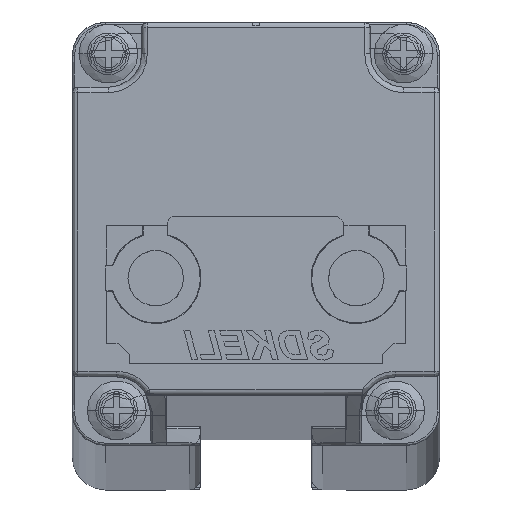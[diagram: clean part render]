
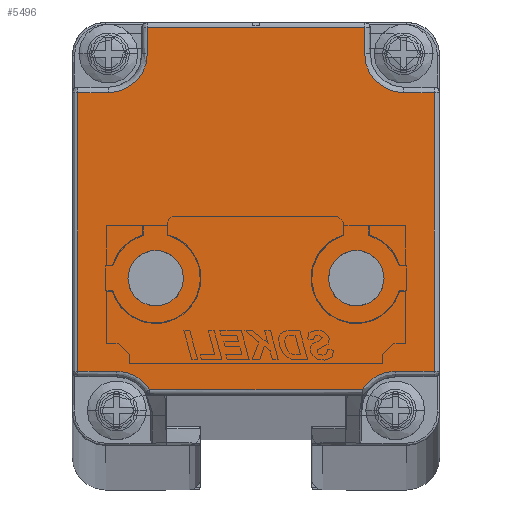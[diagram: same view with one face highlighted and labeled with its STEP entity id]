
A CAD part, top view. The second image highlights one B-rep face of the part: STEP entity #5496.
In plain terms, the highlighted planar face has unit normal (0, 0, 1).
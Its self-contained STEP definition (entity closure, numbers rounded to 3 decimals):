
#2552=CARTESIAN_POINT('',(4.,3.152,370.));
#2553=DIRECTION('',(0.,0.,1.));
#2554=DIRECTION('',(0.849,0.528,0.));
#2555=AXIS2_PLACEMENT_3D('',#2552,#2553,#2554);
#2557=CARTESIAN_POINT('',(3.25,35.15,370.));
#2558=DIRECTION('',(0.,0.,1.));
#2559=DIRECTION('',(0.,-1.,0.));
#2560=AXIS2_PLACEMENT_3D('',#2557,#2558,#2559);
#2562=CARTESIAN_POINT('',(29.75,35.15,370.));
#2563=DIRECTION('',(0.,0.,1.));
#2564=DIRECTION('',(-1.,0.,0.));
#2565=AXIS2_PLACEMENT_3D('',#2562,#2563,#2564);
#2567=CARTESIAN_POINT('',(29.,3.152,370.));
#2568=DIRECTION('',(0.,0.,1.));
#2569=DIRECTION('',(0.,1.,0.));
#2570=AXIS2_PLACEMENT_3D('',#2567,#2568,#2569);
#2572=CARTESIAN_POINT('',(7.5,15.002,370.));
#2573=DIRECTION('',(0.,0.,1.));
#2574=DIRECTION('',(1.,0.007,0.));
#2575=AXIS2_PLACEMENT_3D('',#2572,#2573,#2574);
#2577=CARTESIAN_POINT('',(7.5,15.002,370.));
#2578=DIRECTION('',(0.,0.,1.));
#2579=DIRECTION('',(-1.,-0.007,0.));
#2580=AXIS2_PLACEMENT_3D('',#2577,#2578,#2579);
#2582=CARTESIAN_POINT('',(25.5,15.,370.));
#2583=DIRECTION('',(0.,0.,1.));
#2584=DIRECTION('',(1.,-0.007,0.));
#2585=AXIS2_PLACEMENT_3D('',#2582,#2583,#2584);
#2587=CARTESIAN_POINT('',(25.5,15.,370.));
#2588=DIRECTION('',(0.,0.,1.));
#2589=DIRECTION('',(-1.,0.007,0.));
#2590=AXIS2_PLACEMENT_3D('',#2587,#2588,#2589);
#2632=DIRECTION('',(1.,0.,0.));
#2633=VECTOR('',#2632,19.056);
#2634=CARTESIAN_POINT('',(6.972,5.,370.));
#2635=LINE('',#2634,#2633);
#2957=DIRECTION('',(0.,1.,0.));
#2958=VECTOR('',#2957,2.35);
#2959=CARTESIAN_POINT('',(26.25,35.15,370.));
#2960=LINE('',#2959,#2958);
#2980=DIRECTION('',(-1.,0.,0.));
#2981=VECTOR('',#2980,19.5);
#2982=CARTESIAN_POINT('',(26.25,37.5,370.));
#2983=LINE('',#2982,#2981);
#3004=DIRECTION('',(0.,-1.,0.));
#3005=VECTOR('',#3004,2.35);
#3006=CARTESIAN_POINT('',(6.75,37.5,370.));
#3007=LINE('',#3006,#3005);
#3031=DIRECTION('',(-1.,0.,0.));
#3032=VECTOR('',#3031,2.75);
#3033=CARTESIAN_POINT('',(3.25,31.65,370.));
#3034=LINE('',#3033,#3032);
#3185=DIRECTION('',(0.,-1.,0.));
#3186=VECTOR('',#3185,24.998);
#3187=CARTESIAN_POINT('',(0.5,31.65,370.));
#3188=LINE('',#3187,#3186);
#3224=DIRECTION('',(1.,0.,0.));
#3225=VECTOR('',#3224,3.5);
#3226=CARTESIAN_POINT('',(0.5,6.652,370.));
#3227=LINE('',#3226,#3225);
#3590=DIRECTION('',(-1.,0.,0.));
#3591=VECTOR('',#3590,2.75);
#3592=CARTESIAN_POINT('',(32.5,31.65,370.));
#3593=LINE('',#3592,#3591);
#3740=DIRECTION('',(1.,0.,0.));
#3741=VECTOR('',#3740,3.5);
#3742=CARTESIAN_POINT('',(29.,6.652,370.));
#3743=LINE('',#3742,#3741);
#3775=DIRECTION('',(0.,1.,0.));
#3776=VECTOR('',#3775,24.998);
#3777=CARTESIAN_POINT('',(32.5,6.652,370.));
#3778=LINE('',#3777,#3776);
#4820=CARTESIAN_POINT('',(10.,15.018,370.));
#4821=VERTEX_POINT('',#4820);
#4822=CARTESIAN_POINT('',(5.,14.986,370.));
#4823=VERTEX_POINT('',#4822);
#4824=CARTESIAN_POINT('',(6.972,5.,370.));
#4825=CARTESIAN_POINT('',(4.,6.652,370.));
#4826=VERTEX_POINT('',#4824);
#4827=VERTEX_POINT('',#4825);
#4828=CARTESIAN_POINT('',(0.5,6.652,370.));
#4829=VERTEX_POINT('',#4828);
#4830=CARTESIAN_POINT('',(0.5,31.65,370.));
#4831=VERTEX_POINT('',#4830);
#4832=CARTESIAN_POINT('',(3.25,31.65,370.));
#4833=VERTEX_POINT('',#4832);
#4834=CARTESIAN_POINT('',(6.75,35.15,370.));
#4835=VERTEX_POINT('',#4834);
#4836=CARTESIAN_POINT('',(6.75,37.5,370.));
#4837=VERTEX_POINT('',#4836);
#4838=CARTESIAN_POINT('',(26.25,37.5,370.));
#4839=VERTEX_POINT('',#4838);
#4840=CARTESIAN_POINT('',(26.25,35.15,370.));
#4841=VERTEX_POINT('',#4840);
#4842=CARTESIAN_POINT('',(29.75,31.65,370.));
#4843=VERTEX_POINT('',#4842);
#4844=CARTESIAN_POINT('',(32.5,31.65,370.));
#4845=VERTEX_POINT('',#4844);
#4846=CARTESIAN_POINT('',(32.5,6.652,370.));
#4847=VERTEX_POINT('',#4846);
#4848=CARTESIAN_POINT('',(29.,6.652,370.));
#4849=VERTEX_POINT('',#4848);
#4850=CARTESIAN_POINT('',(26.028,5.,370.));
#4851=VERTEX_POINT('',#4850);
#4852=CARTESIAN_POINT('',(28.,14.984,370.));
#4853=CARTESIAN_POINT('',(23.,15.017,370.));
#4854=VERTEX_POINT('',#4852);
#4855=VERTEX_POINT('',#4853);
#5451=CARTESIAN_POINT('',(16.5,24.,370.));
#5452=DIRECTION('',(0.,0.,1.));
#5453=DIRECTION('',(1.,0.,0.));
#5454=AXIS2_PLACEMENT_3D('',#5451,#5452,#5453);
#5455=PLANE('',#5454);
#5457=ORIENTED_EDGE('',*,*,#5456,.T.);
#5459=ORIENTED_EDGE('',*,*,#5458,.F.);
#5461=ORIENTED_EDGE('',*,*,#5460,.F.);
#5463=ORIENTED_EDGE('',*,*,#5462,.F.);
#5465=ORIENTED_EDGE('',*,*,#5464,.T.);
#5467=ORIENTED_EDGE('',*,*,#5466,.F.);
#5469=ORIENTED_EDGE('',*,*,#5468,.F.);
#5471=ORIENTED_EDGE('',*,*,#5470,.F.);
#5473=ORIENTED_EDGE('',*,*,#5472,.T.);
#5475=ORIENTED_EDGE('',*,*,#5474,.F.);
#5477=ORIENTED_EDGE('',*,*,#5476,.F.);
#5479=ORIENTED_EDGE('',*,*,#5478,.F.);
#5481=ORIENTED_EDGE('',*,*,#5480,.T.);
#5483=ORIENTED_EDGE('',*,*,#5482,.F.);
#5484=EDGE_LOOP('',(#5457,#5459,#5461,#5463,#5465,#5467,#5469,#5471,#5473,#5475,
#5477,#5479,#5481,#5483));
#5485=FACE_OUTER_BOUND('',#5484,.F.);
#5486=ORIENTED_EDGE('',*,*,#5438,.T.);
#5487=ORIENTED_EDGE('',*,*,#5399,.T.);
#5488=EDGE_LOOP('',(#5486,#5487));
#5489=FACE_BOUND('',#5488,.F.);
#5491=ORIENTED_EDGE('',*,*,#5490,.T.);
#5493=ORIENTED_EDGE('',*,*,#5492,.T.);
#5494=EDGE_LOOP('',(#5491,#5493));
#5495=FACE_BOUND('',#5494,.F.);
#2556=CIRCLE('',#2555,3.5);
#2561=CIRCLE('',#2560,3.5);
#2566=CIRCLE('',#2565,3.5);
#2571=CIRCLE('',#2570,3.5);
#2576=CIRCLE('',#2575,2.5);
#2581=CIRCLE('',#2580,2.5);
#2586=CIRCLE('',#2585,2.5);
#2591=CIRCLE('',#2590,2.5);
#5399=EDGE_CURVE('',#4823,#4821,#2581,.T.);
#5438=EDGE_CURVE('',#4821,#4823,#2576,.T.);
#5456=EDGE_CURVE('',#4826,#4827,#2556,.T.);
#5458=EDGE_CURVE('',#4829,#4827,#3227,.T.);
#5460=EDGE_CURVE('',#4831,#4829,#3188,.T.);
#5462=EDGE_CURVE('',#4833,#4831,#3034,.T.);
#5464=EDGE_CURVE('',#4833,#4835,#2561,.T.);
#5466=EDGE_CURVE('',#4837,#4835,#3007,.T.);
#5468=EDGE_CURVE('',#4839,#4837,#2983,.T.);
#5470=EDGE_CURVE('',#4841,#4839,#2960,.T.);
#5472=EDGE_CURVE('',#4841,#4843,#2566,.T.);
#5474=EDGE_CURVE('',#4845,#4843,#3593,.T.);
#5476=EDGE_CURVE('',#4847,#4845,#3778,.T.);
#5478=EDGE_CURVE('',#4849,#4847,#3743,.T.);
#5480=EDGE_CURVE('',#4849,#4851,#2571,.T.);
#5482=EDGE_CURVE('',#4826,#4851,#2635,.T.);
#5490=EDGE_CURVE('',#4854,#4855,#2586,.T.);
#5492=EDGE_CURVE('',#4855,#4854,#2591,.T.);
#5496=ADVANCED_FACE('',(#5485,#5489,#5495),#5455,.T.);
